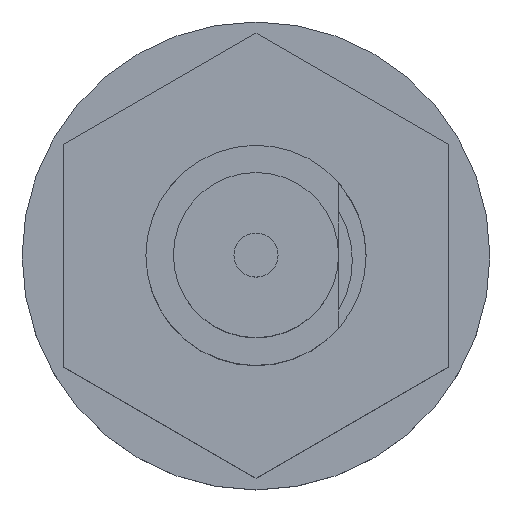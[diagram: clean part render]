
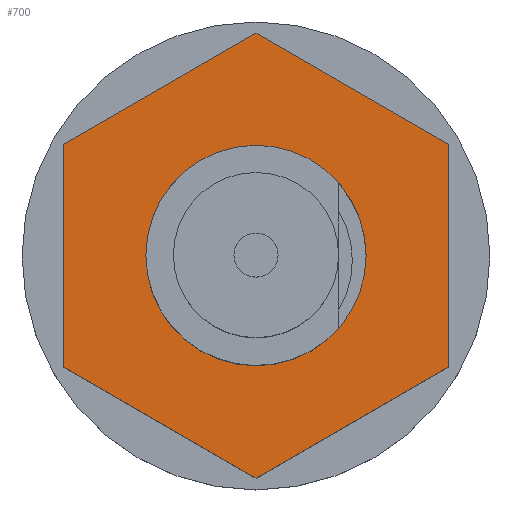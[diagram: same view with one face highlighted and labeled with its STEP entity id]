
A CAD part, top view. The second image highlights one B-rep face of the part: STEP entity #700.
In plain terms, the highlighted planar face has unit normal (0, 0, 1) as drawn and (-1, 0, 0) by its records, which use the part's own axes.
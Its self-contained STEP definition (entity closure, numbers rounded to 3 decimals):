
#631 = VERTEX_POINT ( 'NONE', #1584 ) ;
#640 = EDGE_CURVE ( 'NONE', #641, #642, #1642, .T. ) ;
#641 = VERTEX_POINT ( 'NONE', #1638 ) ;
#642 = VERTEX_POINT ( 'NONE', #1637 ) ;
#681 = ORIENTED_EDGE ( 'NONE', *, *, #682, .T. ) ;
#682 = EDGE_CURVE ( 'NONE', #631, #683, #1700, .T. ) ;
#683 = VERTEX_POINT ( 'NONE', #1696 ) ;
#684 = ORIENTED_EDGE ( 'NONE', *, *, #685, .T. ) ;
#685 = EDGE_CURVE ( 'NONE', #683, #686, #1695, .T. ) ;
#686 = VERTEX_POINT ( 'NONE', #1691 ) ;
#687 = ORIENTED_EDGE ( 'NONE', *, *, #688, .T. ) ;
#688 = EDGE_CURVE ( 'NONE', #686, #704, #1690, .T. ) ;
#689 = EDGE_LOOP ( 'NONE', ( #690, #691 ) ) ;
#690 = ORIENTED_EDGE ( 'NONE', *, *, #640, .F. ) ;
#691 = ORIENTED_EDGE ( 'NONE', *, *, #692, .F. ) ;
#692 = EDGE_CURVE ( 'NONE', #642, #641, #1686, .T. ) ;
#700 = ADVANCED_FACE ( 'NONE', ( #1731, #1730 ), #1729, .T. ) ;
#701 = EDGE_LOOP ( 'NONE', ( #702, #706, #709, #681, #684, #687 ) ) ;
#702 = ORIENTED_EDGE ( 'NONE', *, *, #703, .T. ) ;
#703 = EDGE_CURVE ( 'NONE', #704, #705, #1724, .T. ) ;
#704 = VERTEX_POINT ( 'NONE', #1720 ) ;
#705 = VERTEX_POINT ( 'NONE', #1719 ) ;
#706 = ORIENTED_EDGE ( 'NONE', *, *, #707, .T. ) ;
#707 = EDGE_CURVE ( 'NONE', #705, #708, #1718, .T. ) ;
#708 = VERTEX_POINT ( 'NONE', #1714 ) ;
#709 = ORIENTED_EDGE ( 'NONE', *, *, #710, .T. ) ;
#710 = EDGE_CURVE ( 'NONE', #708, #631, #1713, .T. ) ;
#1577 = CARTESIAN_POINT ( 'NONE',  ( 6., 0., 0. ) ) ;
#1584 = CARTESIAN_POINT ( 'NONE',  ( 6., -2.021, -3.5 ) ) ;
#1637 = CARTESIAN_POINT ( 'NONE',  ( 6., -2., 0. ) ) ;
#1638 = CARTESIAN_POINT ( 'NONE',  ( 6., 2., 0. ) ) ;
#1639 = DIRECTION ( 'NONE',  ( 0., -1., 0. ) ) ;
#1640 = DIRECTION ( 'NONE',  ( -1., 0., 0. ) ) ;
#1641 = AXIS2_PLACEMENT_3D ( 'NONE', #1577, #1640, #1639 ) ;
#1642 = CIRCLE ( 'NONE', #1641, 2. ) ;
#1682 = DIRECTION ( 'NONE',  ( 0., -1., 0. ) ) ;
#1683 = DIRECTION ( 'NONE',  ( -1., 0., 0. ) ) ;
#1684 = CARTESIAN_POINT ( 'NONE',  ( 6., 0., 0. ) ) ;
#1685 = AXIS2_PLACEMENT_3D ( 'NONE', #1684, #1683, #1682 ) ;
#1686 = CIRCLE ( 'NONE', #1685, 2. ) ;
#1687 = DIRECTION ( 'NONE',  ( 0., 1., 0. ) ) ;
#1688 = VECTOR ( 'NONE', #1687, 1000. ) ;
#1689 = CARTESIAN_POINT ( 'NONE',  ( 6., -2.021, 3.5 ) ) ;
#1690 = LINE ( 'NONE', #1689, #1688 ) ;
#1691 = CARTESIAN_POINT ( 'NONE',  ( 6., -2.021, 3.5 ) ) ;
#1692 = DIRECTION ( 'NONE',  ( 0., 0.5, 0.866 ) ) ;
#1693 = VECTOR ( 'NONE', #1692, 1000. ) ;
#1694 = CARTESIAN_POINT ( 'NONE',  ( 6., -4.041, 0. ) ) ;
#1695 = LINE ( 'NONE', #1694, #1693 ) ;
#1696 = CARTESIAN_POINT ( 'NONE',  ( 6., -4.041, 0. ) ) ;
#1697 = DIRECTION ( 'NONE',  ( 0., -0.5, 0.866 ) ) ;
#1698 = VECTOR ( 'NONE', #1697, 1000. ) ;
#1699 = CARTESIAN_POINT ( 'NONE',  ( 6., -2.021, -3.5 ) ) ;
#1700 = LINE ( 'NONE', #1699, #1698 ) ;
#1710 = DIRECTION ( 'NONE',  ( 0., -1., 0. ) ) ;
#1711 = VECTOR ( 'NONE', #1710, 1000. ) ;
#1712 = CARTESIAN_POINT ( 'NONE',  ( 6., 2.021, -3.5 ) ) ;
#1713 = LINE ( 'NONE', #1712, #1711 ) ;
#1714 = CARTESIAN_POINT ( 'NONE',  ( 6., 2.021, -3.5 ) ) ;
#1715 = DIRECTION ( 'NONE',  ( 0., -0.5, -0.866 ) ) ;
#1716 = VECTOR ( 'NONE', #1715, 1000. ) ;
#1717 = CARTESIAN_POINT ( 'NONE',  ( 6., 4.041, 0. ) ) ;
#1718 = LINE ( 'NONE', #1717, #1716 ) ;
#1719 = CARTESIAN_POINT ( 'NONE',  ( 6., 4.041, 0. ) ) ;
#1720 = CARTESIAN_POINT ( 'NONE',  ( 6., 2.021, 3.5 ) ) ;
#1721 = DIRECTION ( 'NONE',  ( 0., 0.5, -0.866 ) ) ;
#1722 = VECTOR ( 'NONE', #1721, 1000. ) ;
#1723 = CARTESIAN_POINT ( 'NONE',  ( 6., 2.021, 3.5 ) ) ;
#1724 = LINE ( 'NONE', #1723, #1722 ) ;
#1725 = DIRECTION ( 'NONE',  ( 0., -1., 0. ) ) ;
#1726 = DIRECTION ( 'NONE',  ( -1., 0., 0. ) ) ;
#1727 = CARTESIAN_POINT ( 'NONE',  ( 6., 4.041, 0. ) ) ;
#1728 = AXIS2_PLACEMENT_3D ( 'NONE', #1727, #1726, #1725 ) ;
#1729 = PLANE ( 'NONE',  #1728 ) ;
#1730 = FACE_BOUND ( 'NONE', #689, .T. ) ;
#1731 = FACE_OUTER_BOUND ( 'NONE', #701, .T. ) ;
